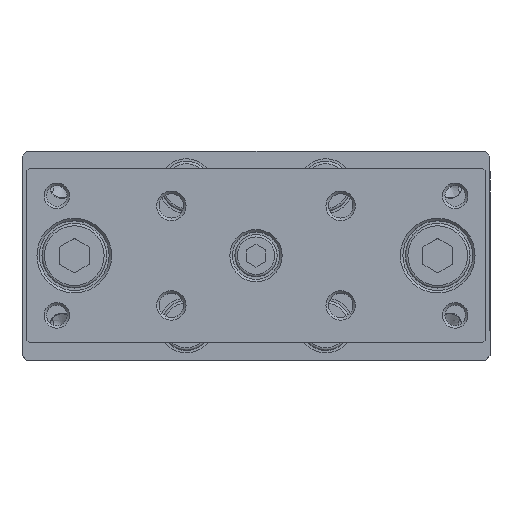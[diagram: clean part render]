
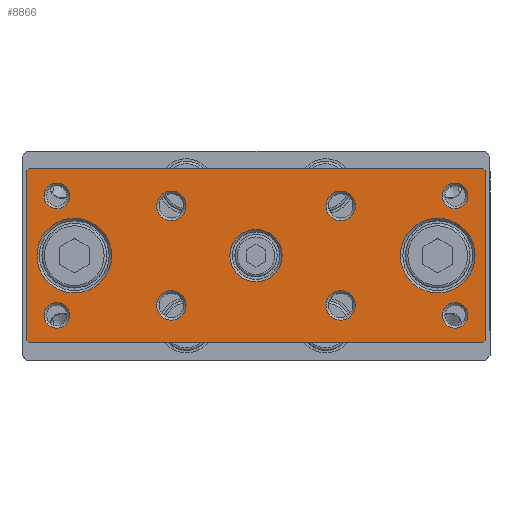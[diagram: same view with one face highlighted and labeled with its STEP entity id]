
A CAD part, top view. The second image highlights one B-rep face of the part: STEP entity #8866.
In plain terms, the highlighted planar face has unit normal (0, 0, 1).
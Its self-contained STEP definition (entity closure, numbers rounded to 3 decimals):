
#7566=CARTESIAN_POINT('',(42.976,19.784,143.2));
#7567=VERTEX_POINT('',#7566);
#7568=CARTESIAN_POINT('',(43.476,19.284,143.2));
#7569=VERTEX_POINT('',#7568);
#7570=CARTESIAN_POINT('',(42.976,19.784,143.2));
#7571=DIRECTION('',(0.707,-0.707,0.0));
#7572=VECTOR('',#7571,0.707);
#7573=LINE('',#7570,#7572);
#7574=EDGE_CURVE('',#7567,#7569,#7573,.T.);
#7708=CARTESIAN_POINT('',(-48.024,19.784,143.2));
#7709=VERTEX_POINT('',#7708);
#7718=CARTESIAN_POINT('',(42.976,19.784,143.2));
#7719=DIRECTION('',(-1.0,0.0,0.0));
#7720=VECTOR('',#7719,91.);
#7721=LINE('',#7718,#7720);
#7722=EDGE_CURVE('',#7567,#7709,#7721,.T.);
#7767=CARTESIAN_POINT('',(43.476,-14.716,143.2));
#7768=VERTEX_POINT('',#7767);
#7782=CARTESIAN_POINT('',(43.476,-14.716,143.2));
#7783=DIRECTION('',(0.0,1.0,0.0));
#7784=VECTOR('',#7783,34.0);
#7785=LINE('',#7782,#7784);
#7786=EDGE_CURVE('',#7768,#7569,#7785,.T.);
#7805=CARTESIAN_POINT('',(42.976,-15.216,143.2));
#7806=VERTEX_POINT('',#7805);
#7807=CARTESIAN_POINT('',(43.476,-14.716,143.2));
#7808=DIRECTION('',(-0.707,-0.707,0.0));
#7809=VECTOR('',#7808,0.707);
#7810=LINE('',#7807,#7809);
#7811=EDGE_CURVE('',#7768,#7806,#7810,.T.);
#7827=CARTESIAN_POINT('',(-48.024,-15.216,143.2));
#7828=VERTEX_POINT('',#7827);
#7829=CARTESIAN_POINT('',(-48.524,-14.716,143.2));
#7830=VERTEX_POINT('',#7829);
#7831=CARTESIAN_POINT('',(-48.024,-15.216,143.2));
#7832=DIRECTION('',(-0.707,0.707,0.0));
#7833=VECTOR('',#7832,0.707);
#7834=LINE('',#7831,#7833);
#7835=EDGE_CURVE('',#7828,#7830,#7834,.T.);
#7935=CARTESIAN_POINT('',(-48.024,-15.216,143.2));
#7936=DIRECTION('',(1.0,0.0,0.0));
#7937=VECTOR('',#7936,91.);
#7938=LINE('',#7935,#7937);
#7939=EDGE_CURVE('',#7828,#7806,#7938,.T.);
#8123=CARTESIAN_POINT('',(-48.524,19.284,143.2));
#8124=VERTEX_POINT('',#8123);
#8133=CARTESIAN_POINT('',(-48.524,19.284,143.2));
#8134=DIRECTION('',(0.0,-1.0,0.0));
#8135=VECTOR('',#8134,34.0);
#8136=LINE('',#8133,#8135);
#8137=EDGE_CURVE('',#8124,#7830,#8136,.T.);
#8149=CARTESIAN_POINT('',(-48.524,19.284,143.2));
#8150=DIRECTION('',(0.707,0.707,0.0));
#8151=VECTOR('',#8150,0.707);
#8152=LINE('',#8149,#8151);
#8153=EDGE_CURVE('',#8124,#7709,#8152,.T.);
#8208=CARTESIAN_POINT('',(2.726,2.284,143.2));
#8209=VERTEX_POINT('',#8208);
#8210=CARTESIAN_POINT('',(-2.524,2.284,143.2));
#8211=DIRECTION('',(0.0,0.0,1.0));
#8212=DIRECTION('',(-1.0,0.0,0.0));
#8213=AXIS2_PLACEMENT_3D('',#8210,#8211,#8212);
#8214=CIRCLE('',#8213,5.25);
#8215=EDGE_CURVE('',#8209,#8209,#8214,.T.);
#8269=CARTESIAN_POINT('',(-39.957,14.284,143.2));
#8270=VERTEX_POINT('',#8269);
#8271=CARTESIAN_POINT('',(-42.524,14.284,143.2));
#8272=DIRECTION('',(0.0,0.0,1.0));
#8273=DIRECTION('',(-1.0,0.0,0.0));
#8274=AXIS2_PLACEMENT_3D('',#8271,#8272,#8273);
#8275=CIRCLE('',#8274,2.567);
#8276=EDGE_CURVE('',#8270,#8270,#8275,.T.);
#8330=CARTESIAN_POINT('',(41.476,2.284,143.2));
#8331=VERTEX_POINT('',#8330);
#8332=CARTESIAN_POINT('',(33.976,2.284,143.2));
#8333=DIRECTION('',(0.0,0.0,1.0));
#8334=DIRECTION('',(-1.0,0.0,0.0));
#8335=AXIS2_PLACEMENT_3D('',#8332,#8333,#8334);
#8336=CIRCLE('',#8335,7.5);
#8337=EDGE_CURVE('',#8331,#8331,#8336,.T.);
#8391=CARTESIAN_POINT('',(-39.957,-9.716,143.2));
#8392=VERTEX_POINT('',#8391);
#8393=CARTESIAN_POINT('',(-42.524,-9.716,143.2));
#8394=DIRECTION('',(0.0,0.0,1.0));
#8395=DIRECTION('',(-1.0,0.0,0.0));
#8396=AXIS2_PLACEMENT_3D('',#8393,#8394,#8395);
#8397=CIRCLE('',#8396,2.567);
#8398=EDGE_CURVE('',#8392,#8392,#8397,.T.);
#8452=CARTESIAN_POINT('',(-31.524,2.284,143.2));
#8453=VERTEX_POINT('',#8452);
#8454=CARTESIAN_POINT('',(-39.024,2.284,143.2));
#8455=DIRECTION('',(0.0,0.0,1.0));
#8456=DIRECTION('',(-1.0,0.0,0.0));
#8457=AXIS2_PLACEMENT_3D('',#8454,#8455,#8456);
#8458=CIRCLE('',#8457,7.5);
#8459=EDGE_CURVE('',#8453,#8453,#8458,.T.);
#8513=CARTESIAN_POINT('',(40.043,-9.716,143.2));
#8514=VERTEX_POINT('',#8513);
#8515=CARTESIAN_POINT('',(37.476,-9.716,143.2));
#8516=DIRECTION('',(0.0,0.0,1.0));
#8517=DIRECTION('',(-1.0,0.0,0.0));
#8518=AXIS2_PLACEMENT_3D('',#8515,#8516,#8517);
#8519=CIRCLE('',#8518,2.567);
#8520=EDGE_CURVE('',#8514,#8514,#8519,.T.);
#8574=CARTESIAN_POINT('',(17.434,-7.716,143.2));
#8575=VERTEX_POINT('',#8574);
#8576=CARTESIAN_POINT('',(14.476,-7.716,143.2));
#8577=DIRECTION('',(0.0,0.0,1.0));
#8578=DIRECTION('',(-1.0,0.0,0.0));
#8579=AXIS2_PLACEMENT_3D('',#8576,#8577,#8578);
#8580=CIRCLE('',#8579,2.959);
#8581=EDGE_CURVE('',#8575,#8575,#8580,.T.);
#8635=CARTESIAN_POINT('',(40.043,14.284,143.2));
#8636=VERTEX_POINT('',#8635);
#8637=CARTESIAN_POINT('',(37.476,14.284,143.2));
#8638=DIRECTION('',(0.0,0.0,1.0));
#8639=DIRECTION('',(-1.0,0.0,0.0));
#8640=AXIS2_PLACEMENT_3D('',#8637,#8638,#8639);
#8641=CIRCLE('',#8640,2.567);
#8642=EDGE_CURVE('',#8636,#8636,#8641,.T.);
#8696=CARTESIAN_POINT('',(-16.566,-7.716,143.2));
#8697=VERTEX_POINT('',#8696);
#8698=CARTESIAN_POINT('',(-19.524,-7.716,143.2));
#8699=DIRECTION('',(0.0,0.0,1.0));
#8700=DIRECTION('',(-1.0,0.0,0.0));
#8701=AXIS2_PLACEMENT_3D('',#8698,#8699,#8700);
#8702=CIRCLE('',#8701,2.958);
#8703=EDGE_CURVE('',#8697,#8697,#8702,.T.);
#8757=CARTESIAN_POINT('',(-16.566,12.284,143.2));
#8758=VERTEX_POINT('',#8757);
#8759=CARTESIAN_POINT('',(-19.524,12.284,143.2));
#8760=DIRECTION('',(0.0,0.0,1.0));
#8761=DIRECTION('',(-1.0,0.0,0.0));
#8762=AXIS2_PLACEMENT_3D('',#8759,#8760,#8761);
#8763=CIRCLE('',#8762,2.958);
#8764=EDGE_CURVE('',#8758,#8758,#8763,.T.);
#8810=CARTESIAN_POINT('',(-48.524,2.284,143.2));
#8811=DIRECTION('',(0.0,0.0,1.0));
#8812=DIRECTION('',(1.0,0.0,0.0));
#8813=AXIS2_PLACEMENT_3D('',#8810,#8811,#8812);
#8814=PLANE('',#8813);
#8815=ORIENTED_EDGE('',*,*,#8153,.F.);
#8816=ORIENTED_EDGE('',*,*,#8137,.T.);
#8817=ORIENTED_EDGE('',*,*,#7835,.F.);
#8818=ORIENTED_EDGE('',*,*,#7939,.T.);
#8819=ORIENTED_EDGE('',*,*,#7811,.F.);
#8820=ORIENTED_EDGE('',*,*,#7786,.T.);
#8821=ORIENTED_EDGE('',*,*,#7574,.F.);
#8822=ORIENTED_EDGE('',*,*,#7722,.T.);
#8823=EDGE_LOOP('',(#8815,#8816,#8817,#8818,#8819,#8820,#8821,#8822));
#8824=FACE_OUTER_BOUND('',#8823,.T.);
#8825=ORIENTED_EDGE('',*,*,#8764,.F.);
#8826=EDGE_LOOP('',(#8825));
#8827=FACE_BOUND('',#8826,.T.);
#8828=ORIENTED_EDGE('',*,*,#8642,.F.);
#8829=EDGE_LOOP('',(#8828));
#8830=FACE_BOUND('',#8829,.T.);
#8831=ORIENTED_EDGE('',*,*,#8520,.F.);
#8832=EDGE_LOOP('',(#8831));
#8833=FACE_BOUND('',#8832,.T.);
#8834=ORIENTED_EDGE('',*,*,#8398,.F.);
#8835=EDGE_LOOP('',(#8834));
#8836=FACE_BOUND('',#8835,.T.);
#8837=ORIENTED_EDGE('',*,*,#8276,.F.);
#8838=EDGE_LOOP('',(#8837));
#8839=FACE_BOUND('',#8838,.T.);
#8840=ORIENTED_EDGE('',*,*,#8215,.F.);
#8841=EDGE_LOOP('',(#8840));
#8842=FACE_BOUND('',#8841,.T.);
#8843=ORIENTED_EDGE('',*,*,#8337,.F.);
#8844=EDGE_LOOP('',(#8843));
#8845=FACE_BOUND('',#8844,.T.);
#8846=ORIENTED_EDGE('',*,*,#8459,.F.);
#8847=EDGE_LOOP('',(#8846));
#8848=FACE_BOUND('',#8847,.T.);
#8849=ORIENTED_EDGE('',*,*,#8581,.F.);
#8850=EDGE_LOOP('',(#8849));
#8851=FACE_BOUND('',#8850,.T.);
#8852=ORIENTED_EDGE('',*,*,#8703,.F.);
#8853=EDGE_LOOP('',(#8852));
#8854=FACE_BOUND('',#8853,.T.);
#8855=CARTESIAN_POINT('',(17.434,12.284,143.2));
#8856=VERTEX_POINT('',#8855);
#8857=CARTESIAN_POINT('',(14.476,12.284,143.2));
#8858=DIRECTION('',(0.0,0.0,1.0));
#8859=DIRECTION('',(-1.0,0.0,0.0));
#8860=AXIS2_PLACEMENT_3D('',#8857,#8858,#8859);
#8861=CIRCLE('',#8860,2.959);
#8862=EDGE_CURVE('',#8856,#8856,#8861,.T.);
#8863=ORIENTED_EDGE('',*,*,#8862,.F.);
#8864=EDGE_LOOP('',(#8863));
#8865=FACE_BOUND('',#8864,.T.);
#8866=ADVANCED_FACE('',(#8824,#8827,#8830,#8833,#8836,#8839,#8842,#8845,#8848,#8851,#8854,#8865),#8814,.T.);
